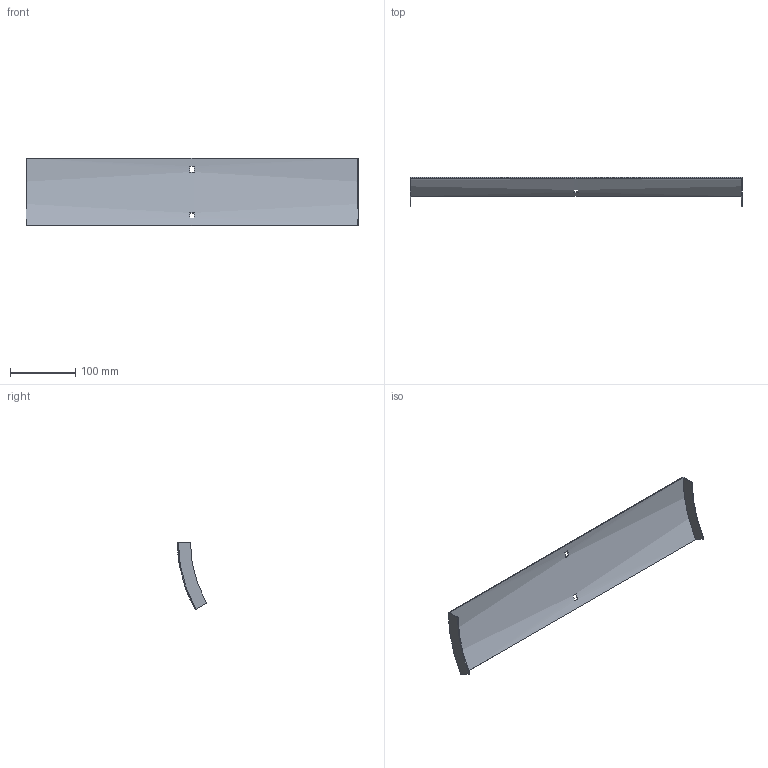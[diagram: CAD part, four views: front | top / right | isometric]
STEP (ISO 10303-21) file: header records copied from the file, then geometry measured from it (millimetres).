
FILE_DESCRIPTION (( 'STEP AP214' ), '1' );
FILE_NAME ('35N1D500.step', '2025-02-21T09:11:10', ( '' ), ( '' ), 'SwSTEP 2.0', 'SolidWorks 2023', '' );
FILE_SCHEMA (( 'AUTOMOTIVE_DESIGN' ));
Length unit declared in the file: millimetre
Products named in the file (1): 35N1D500
Bounding box: 507 x 44.85 x 102.75 mm (x, y, z)
Volume: 87014.1 mm3; surface area: 118036.7 mm2
Topology: 1 solids, 1 shells, 18 faces, 48 edges, 32 vertices
Faces by surface type: plane 14, cylinder 4
Entity records: 599 total; most frequent: DIRECTION 102, CARTESIAN_POINT 99, ORIENTED_EDGE 96, EDGE_CURVE 48, AXIS2_PLACEMENT_3D 35, VECTOR 32, VERTEX_POINT 32, LINE 32
